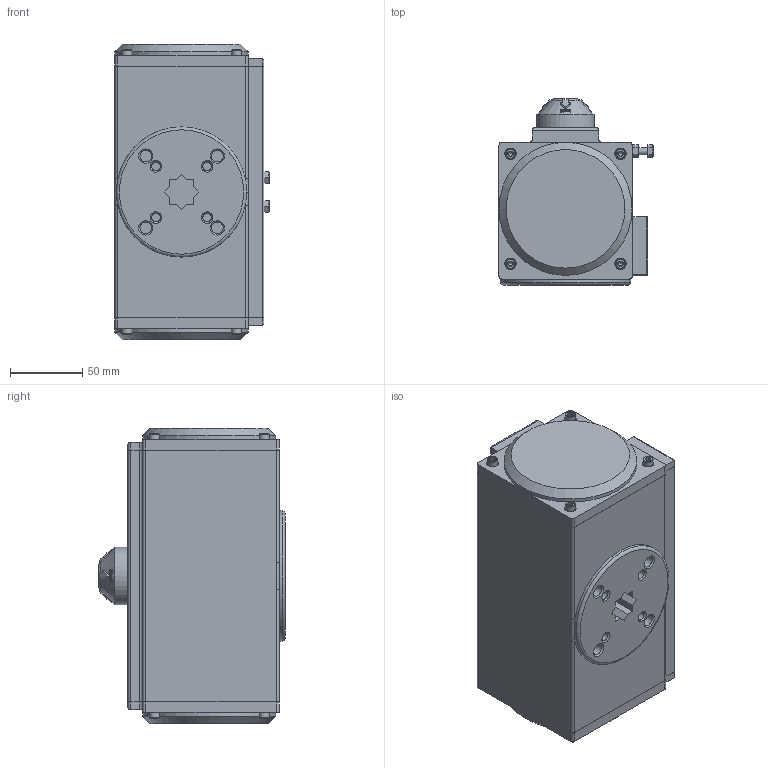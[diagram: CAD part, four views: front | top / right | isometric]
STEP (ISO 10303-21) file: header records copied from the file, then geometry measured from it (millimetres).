
FILE_DESCRIPTION(('STEP AP242'), '1');
FILE_NAME('PA-DA-083 砅槻斁瀔魤鍱 DN.ru', '2026-04-17T19:19:49', ('DN.ru'), (''), 'C3D Converter', 'C3D Toolkit', '');
FILE_SCHEMA(('AP242_MANAGED_MODEL_BASED_3D_ENGINEERING_MIM_LF { 1 0 10303 442 1 1 4 }'));
Length unit declared in the file: millimetre
Products named in the file (1): PA-DA-083
Bounding box: 106.5 x 128.7 x 204 mm (x, y, z)
Volume: 1928190.5 mm3; surface area: 146148.1 mm2
Topology: 1 solids, 4 shells, 1013 faces, 2631 edges, 1712 vertices
Faces by surface type: plane 446, extrusion 346, cylinder 112, cone 91, torus 15, bspline 3
Full cylindrical faces by diameter (mm): 3 x8, 4 x8, 4.724 x2, 5 x12, 6 x4, 7 x8, 8 x21, 40 x3, 90 x1, 92 x2
Entity records: 54775 total; most frequent: CARTESIAN_POINT 24308, ORIENTED_EDGE 4944, DIRECTION 3389, EDGE_CURVE 2472, VERTEX_POINT 1688, B_SPLINE_CURVE_WITH_KNOTS 1433, VECTOR 1387, EDGE_LOOP 1254
